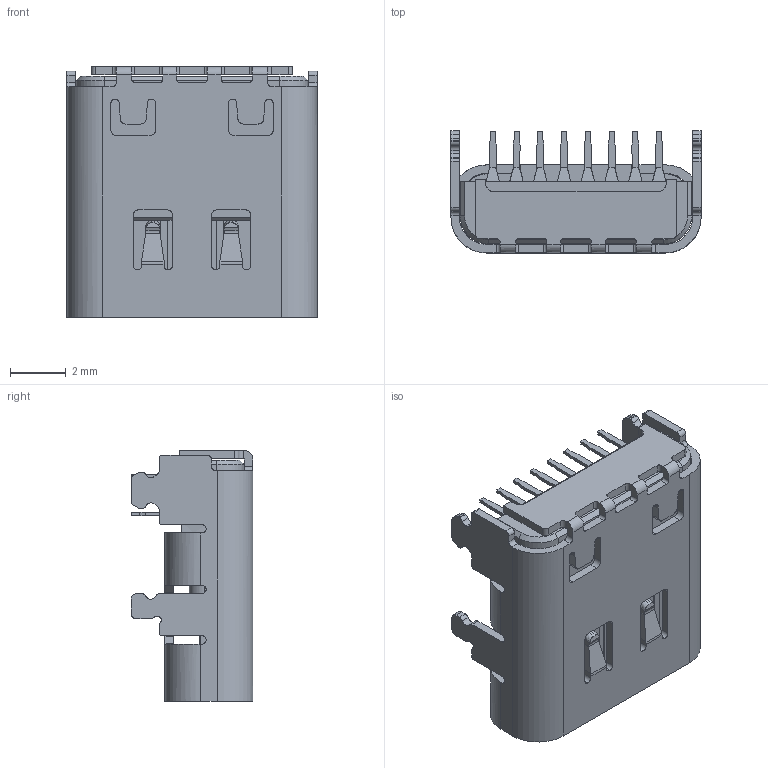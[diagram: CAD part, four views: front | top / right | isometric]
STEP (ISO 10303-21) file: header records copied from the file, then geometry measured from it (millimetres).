
FILE_DESCRIPTION (( 'STEP AP214' ), '1' );
FILE_NAME ('U5103-16PNT8.97L.STEP', '2026-06-02T05:48:12', ( '' ), ( '' ), 'SwSTEP 2.0', 'SolidWorks 2024', '' );
FILE_SCHEMA (( 'AUTOMOTIVE_DESIGN' ));
Length unit declared in the file: millimetre
Products named in the file (1): U5103-16PNT8.97L
Bounding box: 8.94 x 4.35 x 8.97 mm (x, y, z)
Volume: 145.4 mm3; surface area: 602.2 mm2
Topology: 1 solids, 1 shells, 740 faces, 2204 edges, 1466 vertices
Faces by surface type: bspline 740
Entity records: 25501 total; most frequent: CARTESIAN_POINT 12535, ORIENTED_EDGE 4408, EDGE_CURVE 2204, B_SPLINE_CURVE_WITH_KNOTS 1999, VERTEX_POINT 1466, EDGE_LOOP 764, FACE_OUTER_BOUND 740, ADVANCED_FACE 740
